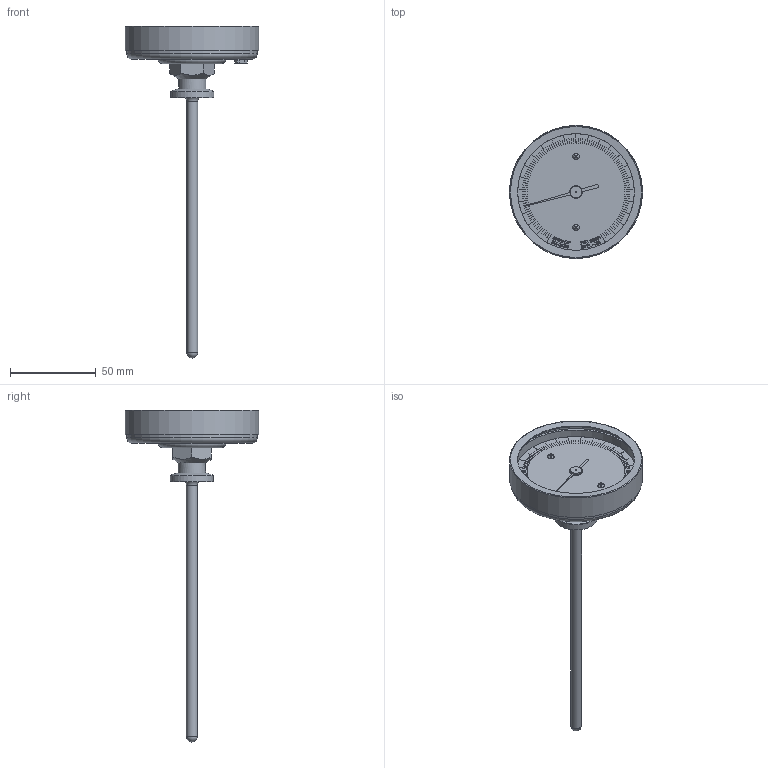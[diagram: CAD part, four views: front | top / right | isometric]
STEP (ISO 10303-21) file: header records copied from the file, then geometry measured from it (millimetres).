
FILE_DESCRIPTION(/* description */ (''),/* implementation_level */ '2;1');
FILE_NAME(/* name */ 'P:\3D Drawings\AA\AA-3quarter-SANITARY\AA-3quarter-SANITARY-STP\AA-3quarter-SANITARY-STP.stp',/* time_stamp */ '2015-11-09T10:24:19-08:00',/* author */ ('charles'),/* organization */ (''),/* preprocessor_version */ 'ST-DEVELOPER v15.2',/* originating_system */ 'Autodesk Inventor 2014',/* authorisation */ '');
FILE_SCHEMA (('AUTOMOTIVE_DESIGN { 1 0 10303 214 3 1 1 }'));
Length unit declared in the file: inch
Products named in the file (1): AA-3quarter-SANITARY
Bounding box: 77.47 x 77.47 x 193.16 mm (x, y, z)
Volume: 42800.5 mm3; surface area: 44835.6 mm2
Topology: 26 solids, 27 shells, 1466 faces, 4190 edges, 2790 vertices
Faces by surface type: plane 1102, bspline 328, cylinder 21, torus 9, cone 5, sphere 1
Full cylindrical faces by diameter (mm): 0.311 x1, 2.286 x4, 6.35 x1, 6.714 x1, 6.934 x2, 12.723 x1, 15.875 x1, 25.197 x1, 67.855 x1, 70.612 x2, 73.406 x1, 75.946 x1, 76.2 x1, 77.47 x1
Entity records: 52538 total; most frequent: CARTESIAN_POINT 14537, ORIENTED_EDGE 8296, DIRECTION 5799, EDGE_CURVE 4148, LINE 3401, VECTOR 3401, VERTEX_POINT 2782, EDGE_LOOP 1902
